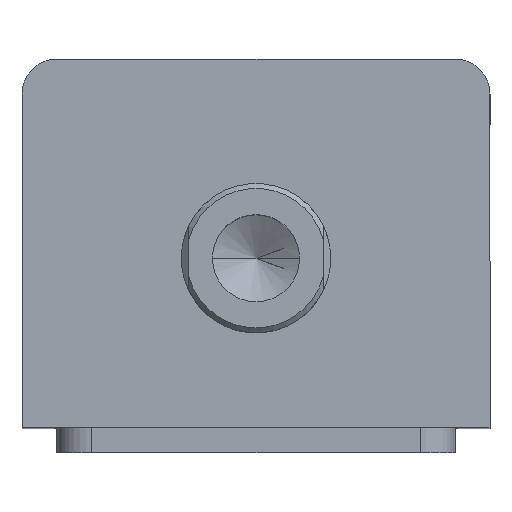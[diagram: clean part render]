
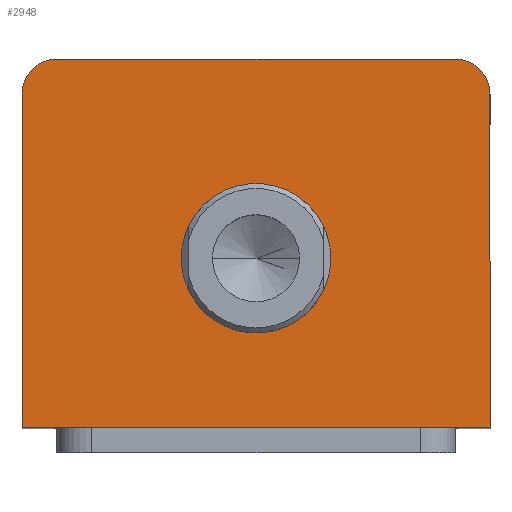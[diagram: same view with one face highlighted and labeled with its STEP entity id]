
A CAD part, top view. The second image highlights one B-rep face of the part: STEP entity #2948.
In plain terms, the highlighted planar face has unit normal (0, 0, 1).
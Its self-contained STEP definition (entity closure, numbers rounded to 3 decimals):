
#46 = EDGE_CURVE ( 'NONE', #2529, #2530, #1512, .T. ) ;
#107 = VERTEX_POINT ( 'NONE', #2432 ) ;
#386 = DIRECTION ( 'NONE',  ( 0., 0., 1. ) ) ;
#390 = PLANE ( 'NONE',  #1660 ) ;
#393 = DIRECTION ( 'NONE',  ( 1., 0., 0. ) ) ;
#416 = CARTESIAN_POINT ( 'NONE',  ( 0., 0., 125. ) ) ;
#522 = LINE ( 'NONE', #2314, #529 ) ;
#529 = VECTOR ( 'NONE', #2304, 1000. ) ;
#556 = LINE ( 'NONE', #2266, #559 ) ;
#559 = VECTOR ( 'NONE', #2265, 1000. ) ;
#589 = LINE ( 'NONE', #2213, #592 ) ;
#592 = VECTOR ( 'NONE', #2211, 1000. ) ;
#652 = CIRCLE ( 'NONE', #1704, 15. ) ;
#715 = CIRCLE ( 'NONE', #1772, 7. ) ;
#725 = CIRCLE ( 'NONE', #1705, 7. ) ;
#737 = VERTEX_POINT ( 'NONE', #2272 ) ;
#780 = DIRECTION ( 'NONE',  ( 0., -1., 0. ) ) ;
#783 = CARTESIAN_POINT ( 'NONE',  ( -47., 37., 125. ) ) ;
#818 = DIRECTION ( 'NONE',  ( 1., 0., 0. ) ) ;
#819 = DIRECTION ( 'NONE',  ( 0., 0., 1. ) ) ;
#820 = CARTESIAN_POINT ( 'NONE',  ( -40., 30., 125. ) ) ;
#854 = DIRECTION ( 'NONE',  ( 1., 0., 0. ) ) ;
#855 = DIRECTION ( 'NONE',  ( 0., 0., 1. ) ) ;
#856 = CARTESIAN_POINT ( 'NONE',  ( 40., 30., 125. ) ) ;
#1108 = DIRECTION ( 'NONE',  ( 1., 0., 0. ) ) ;
#1109 = DIRECTION ( 'NONE',  ( 0., 0., 1. ) ) ;
#1110 = CARTESIAN_POINT ( 'NONE',  ( 0., -3., 125. ) ) ;
#1181 = CARTESIAN_POINT ( 'NONE',  ( -15., -3., 125. ) ) ;
#1190 = CARTESIAN_POINT ( 'NONE',  ( 15., -3., 125. ) ) ;
#1243 = ORIENTED_EDGE ( 'NONE', *, *, #2871, .F. ) ;
#1252 = ORIENTED_EDGE ( 'NONE', *, *, #2931, .T. ) ;
#1280 = ORIENTED_EDGE ( 'NONE', *, *, #1892, .T. ) ;
#1411 = ORIENTED_EDGE ( 'NONE', *, *, #1926, .T. ) ;
#1428 = ORIENTED_EDGE ( 'NONE', *, *, #2914, .T. ) ;
#1459 = ORIENTED_EDGE ( 'NONE', *, *, #46, .F. ) ;
#1512 = CIRCLE ( 'NONE', #1872, 15. ) ;
#1532 = VERTEX_POINT ( 'NONE', #2512 ) ;
#1533 = VERTEX_POINT ( 'NONE', #2393 ) ;
#1534 = VERTEX_POINT ( 'NONE', #2399 ) ;
#1557 = VERTEX_POINT ( 'NONE', #2376 ) ;
#1660 = AXIS2_PLACEMENT_3D ( 'NONE', #416, #386, #393 ) ;
#1704 = AXIS2_PLACEMENT_3D ( 'NONE', #1110, #1109, #1108 ) ;
#1705 = AXIS2_PLACEMENT_3D ( 'NONE', #820, #819, #818 ) ;
#1772 = AXIS2_PLACEMENT_3D ( 'NONE', #856, #855, #854 ) ;
#1872 = AXIS2_PLACEMENT_3D ( 'NONE', #2477, #2476, #2475 ) ;
#1892 = EDGE_CURVE ( 'NONE', #1557, #107, #522, .T. ) ;
#1907 = EDGE_CURVE ( 'NONE', #107, #737, #556, .T. ) ;
#1926 = EDGE_CURVE ( 'NONE', #1532, #1533, #589, .T. ) ;
#1962 = LINE ( 'NONE', #783, #1963 ) ;
#1963 = VECTOR ( 'NONE', #780, 1000. ) ;
#1983 = FACE_BOUND ( 'NONE', #2577, .T. ) ;
#1986 = FACE_OUTER_BOUND ( 'NONE', #2581, .T. ) ;
#2211 = DIRECTION ( 'NONE',  ( -1., 0., 0. ) ) ;
#2213 = CARTESIAN_POINT ( 'NONE',  ( -47., 37., 125. ) ) ;
#2265 = DIRECTION ( 'NONE',  ( 0., 1., 0. ) ) ;
#2266 = CARTESIAN_POINT ( 'NONE',  ( 47., 37., 125. ) ) ;
#2272 = CARTESIAN_POINT ( 'NONE',  ( 47., 30., 125. ) ) ;
#2304 = DIRECTION ( 'NONE',  ( 1., 0., 0. ) ) ;
#2314 = CARTESIAN_POINT ( 'NONE',  ( -47., -37., 125. ) ) ;
#2376 = CARTESIAN_POINT ( 'NONE',  ( -47., -37., 125. ) ) ;
#2393 = CARTESIAN_POINT ( 'NONE',  ( -40., 37., 125. ) ) ;
#2399 = CARTESIAN_POINT ( 'NONE',  ( -47., 30., 125. ) ) ;
#2432 = CARTESIAN_POINT ( 'NONE',  ( 47., -37., 125. ) ) ;
#2475 = DIRECTION ( 'NONE',  ( 1., 0., 0. ) ) ;
#2476 = DIRECTION ( 'NONE',  ( 0., 0., 1. ) ) ;
#2477 = CARTESIAN_POINT ( 'NONE',  ( 0., -3., 125. ) ) ;
#2512 = CARTESIAN_POINT ( 'NONE',  ( 40., 37., 125. ) ) ;
#2529 = VERTEX_POINT ( 'NONE', #1190 ) ;
#2530 = VERTEX_POINT ( 'NONE', #1181 ) ;
#2577 = EDGE_LOOP ( 'NONE', ( #1459, #1243 ) ) ;
#2581 = EDGE_LOOP ( 'NONE', ( #1411, #2744, #1252, #1280, #2701, #1428 ) ) ;
#2701 = ORIENTED_EDGE ( 'NONE', *, *, #1907, .T. ) ;
#2744 = ORIENTED_EDGE ( 'NONE', *, *, #2922, .T. ) ;
#2871 = EDGE_CURVE ( 'NONE', #2530, #2529, #652, .T. ) ;
#2914 = EDGE_CURVE ( 'NONE', #737, #1532, #715, .T. ) ;
#2922 = EDGE_CURVE ( 'NONE', #1533, #1534, #725, .T. ) ;
#2931 = EDGE_CURVE ( 'NONE', #1534, #1557, #1962, .T. ) ;
#2948 = ADVANCED_FACE ( 'NONE', ( #1983, #1986 ), #390, .T. ) ;
